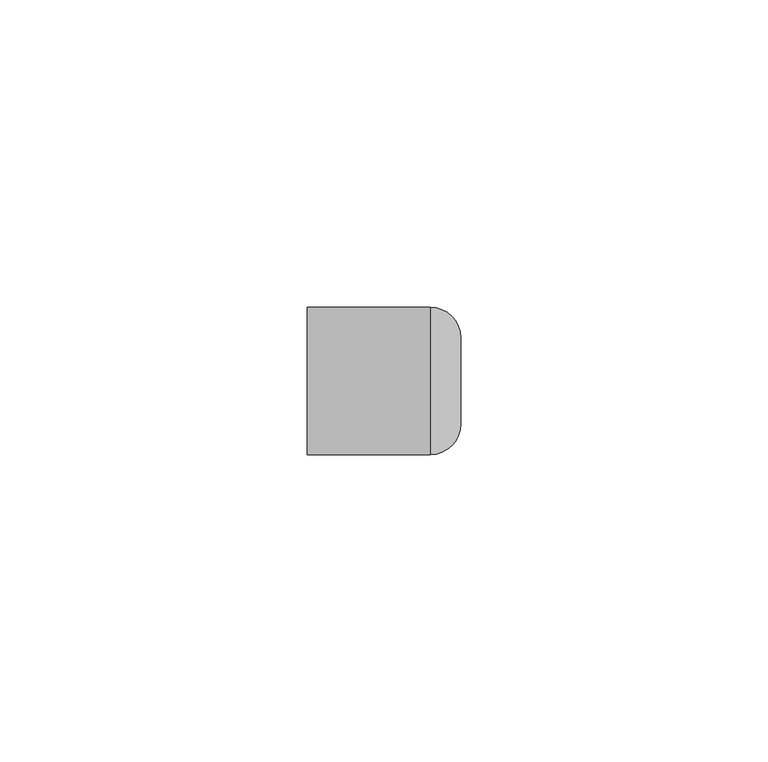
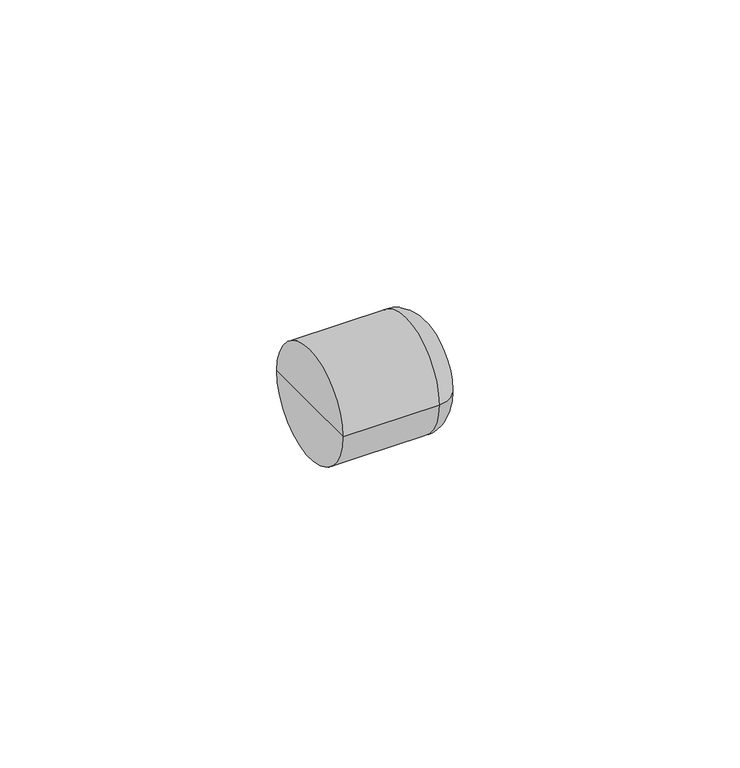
"""IFC4 building model written with IfcOpenShell, lengths in millimetres: pipe fitting geometry, KAN-therm PP zaślepka : KAN-therm PP zaślepka."""

from ifc_helpers import new_model, si_unit, point, frame, origin, place, context, project, spatial, circle_curve, ellipse_curve, trimmed, source, transform, mapped, element, save
from ifc_brep_helpers import plane_surface, cylinder_surface, revolved_surface, advanced_brep


def pipe_fitting_1dd2d78f(model_context):
    return source(origin(), model_context, "Body", "AdvancedBrep", [
        advanced_brep(
        [(12.5, -7.0, 0.0), (12.5, 7.0, 0.0), (12.5, 0.0, 0.0), (-12.5, -12.0, 0.0), (-12.5, 12.0, 0.0), (7.5, 12.0, 0.0), (7.5, -12.0, 0.0), (-12.5, 0.0, 0.0)],
        [
            (0, 1, circle_curve(frame((12.5, 0.0, 0.0), z_axis=(1.0, 0.0, 0.0), x_axis=(0.0, 1.0, 0.0)), 7.0)),
            (1, 2),
            (2, 0),
            (1, 0, circle_curve(frame((12.5, 0.0, 0.0), z_axis=(1.0, 0.0, 0.0), x_axis=(0.0, 1.0, 0.0)), 7.0)),
            (3, 4, circle_curve(frame((-12.5, 0.0, 0.0), z_axis=(1.0, 0.0, 0.0), x_axis=(0.0, 1.0, 0.0)), 12.0)),
            (4, 5),
            (5, 6, circle_curve(frame((7.5, 0.0, 0.0), z_axis=(-1.0, 0.0, 0.0), x_axis=(0.0, 1.0, 0.0)), 12.0)),
            (6, 3),
            (4, 3, circle_curve(frame((-12.5, 0.0, 0.0), z_axis=(1.0, 0.0, 0.0), x_axis=(0.0, 1.0, 0.0)), 12.0)),
            (6, 5, circle_curve(frame((7.5, 0.0, 0.0), z_axis=(-1.0, 0.0, 0.0), x_axis=(0.0, 1.0, 0.0)), 12.0)),
            (7, 4),
            (3, 7),
            (5, 1, circle_curve(frame((7.5, 7.0, 0.0), z_axis=(0.0, 0.0, -1.0), x_axis=(1.0, 0.0, 0.0)), 5.0)),
            (0, 6, circle_curve(frame((7.5, -7.0, 0.0), z_axis=(0.0, 0.0, -1.0), x_axis=(1.0, 0.0, 0.0)), 5.0)),
        ],
        [
            plane_surface(frame((12.5, 0.0, 0.0), z_axis=(1.0, 0.0, 0.0), x_axis=(0.0, 1.0, 0.0))),
            cylinder_surface(frame((1326.242668, 0.0, 0.0), z_axis=(-1.0, 0.0, 0.0), x_axis=(0.0, 1.0, 0.0)), 12.0),
            plane_surface(frame((-12.5, 0.0, 0.0), z_axis=(-1.0, 0.0, 0.0), x_axis=(0.0, 1.0, 0.0))),
            revolved_surface(trimmed(ellipse_curve(frame((7.5, 7.0, 0.0), z_axis=(0.0, 0.0, 1.0), x_axis=(1.0, 0.0, 0.0)), 5.0, 5.0), [point((12.5, 7.0, 0.0))], [point((7.5, 12.0, 0.0))], True, "CARTESIAN"), (1326.242668, 0.0, 0.0), (-1.0, 0.0, 0.0)),
        ],
        [
            (0, [[1, 2, 3]]),
            (0, [[4, -3, -2]]),
            (1, [[5, 6, 7, 8]]),
            (1, [[9, -8, 10, -6]]),
            (2, [[11, -5, 12]]),
            (2, [[-12, -9, -11]]),
            (3, [[-7, 13, -1, 14]]),
            (3, [[-10, -14, -4, -13]]),
        ],
    ),
    ])


if __name__ == "__main__":
    model = new_model("IFC4")
    model_context = context("Model", 3, world=origin())
    ifc_project = project(units=[si_unit("LENGTHUNIT", "METRE", prefix="MILLI")], contexts=[model_context])
    site = spatial("IfcSite", under=ifc_project)
    building = spatial("IfcBuilding", under=site)
    placement = place(None, origin())
    pipe_fitting_shape = pipe_fitting_1dd2d78f(model_context)
    element("IfcPipeFitting", 1, ObjectType="KAN-therm PP zaślepka : KAN-therm PP zaślepka", at=placement, inside=building, context=model_context, shape_type="MappedRepresentation", body=[
        mapped(pipe_fitting_shape, transform((0.0, 0.0, 0.0), x_axis=(1.0, 0.0, 0.0), y_axis=(0.0, 1.0, 0.0), z_axis=(0.0, 0.0, 1.0))),
    ])
    save(model, "model.ifc")
